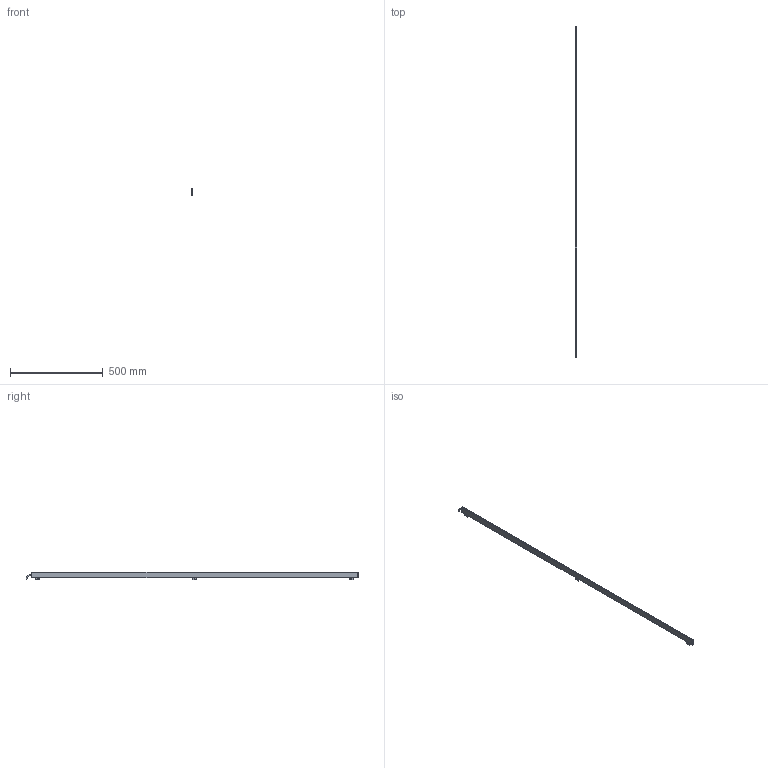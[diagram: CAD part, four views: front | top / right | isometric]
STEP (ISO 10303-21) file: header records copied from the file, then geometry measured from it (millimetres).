
FILE_DESCRIPTION (( 'STEP AP214' ), '1' );
FILE_NAME ('ILG-N-K1-1760mm.STEP', '2017-07-10T13:29:19', ( '' ), ( '' ), 'SwSTEP 2.0', 'SolidWorks 2016', '' );
FILE_SCHEMA (( 'AUTOMOTIVE_DESIGN' ));
Length unit declared in the file: millimetre
Products named in the file (1): ILG-N-K1-1760mm
Bounding box: 10.23 x 1788.25 x 42.41 mm (x, y, z)
Volume: 198253.2 mm3; surface area: 293980.6 mm2
Topology: 12 solids, 12 shells, 532 faces, 1348 edges, 836 vertices
Faces by surface type: plane 296, cylinder 162, cone 64, torus 10
Entity records: 21865 total; most frequent: CARTESIAN_POINT 2865, DIRECTION 2794, ORIENTED_EDGE 2680, EDGE_CURVE 1340, AXIS2_PLACEMENT_3D 973, VECTOR 848, LINE 848, VERTEX_POINT 836
